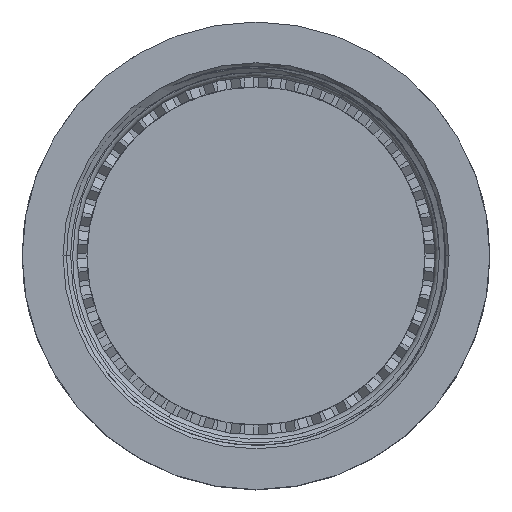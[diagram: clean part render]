
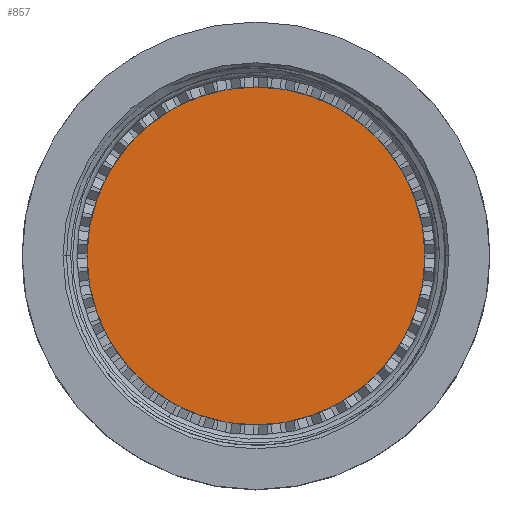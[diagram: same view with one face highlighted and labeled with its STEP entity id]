
A CAD part, top view. The second image highlights one B-rep face of the part: STEP entity #857.
In plain terms, the highlighted planar face has unit normal (0, 0, 1).
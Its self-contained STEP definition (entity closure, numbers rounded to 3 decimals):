
#104 = DIRECTION ( 'NONE',  ( 0., 0., -1. ) ) ;
#278 = DIRECTION ( 'NONE',  ( -1., 0., 0. ) ) ;
#824 = CARTESIAN_POINT ( 'NONE',  ( -15.1, 0., -1.75 ) ) ;
#857 = ADVANCED_FACE ( 'NONE', ( #4868 ), #10025, .F. ) ;
#2407 = DIRECTION ( 'NONE',  ( -1., 0., 0. ) ) ;
#3418 = ORIENTED_EDGE ( 'NONE', *, *, #14844, .T. ) ;
#3752 = DIRECTION ( 'NONE',  ( 0., 0., 1. ) ) ;
#4868 = FACE_OUTER_BOUND ( 'NONE', #9822, .T. ) ;
#5331 = AXIS2_PLACEMENT_3D ( 'NONE', #13937, #104, #278 ) ;
#8070 = EDGE_CURVE ( 'NONE', #11646, #8805, #15942, .T. ) ;
#8612 = AXIS2_PLACEMENT_3D ( 'NONE', #10165, #3752, #15538 ) ;
#8805 = VERTEX_POINT ( 'NONE', #12728 ) ;
#9822 = EDGE_LOOP ( 'NONE', ( #3418, #12094 ) ) ;
#10025 = PLANE ( 'NONE',  #5331 ) ;
#10165 = CARTESIAN_POINT ( 'NONE',  ( 0., 0., -1.75 ) ) ;
#11646 = VERTEX_POINT ( 'NONE', #824 ) ;
#12094 = ORIENTED_EDGE ( 'NONE', *, *, #8070, .T. ) ;
#12677 = AXIS2_PLACEMENT_3D ( 'NONE', #16507, #13934, #2407 ) ;
#12728 = CARTESIAN_POINT ( 'NONE',  ( 15.1, 0., -1.75 ) ) ;
#13481 = CIRCLE ( 'NONE', #12677, 15.1 ) ;
#13934 = DIRECTION ( 'NONE',  ( 0., 0., 1. ) ) ;
#13937 = CARTESIAN_POINT ( 'NONE',  ( 0., 0., -1.75 ) ) ;
#14844 = EDGE_CURVE ( 'NONE', #8805, #11646, #13481, .T. ) ;
#15538 = DIRECTION ( 'NONE',  ( -1., 0., 0. ) ) ;
#15942 = CIRCLE ( 'NONE', #8612, 15.1 ) ;
#16507 = CARTESIAN_POINT ( 'NONE',  ( 0., 0., -1.75 ) ) ;
